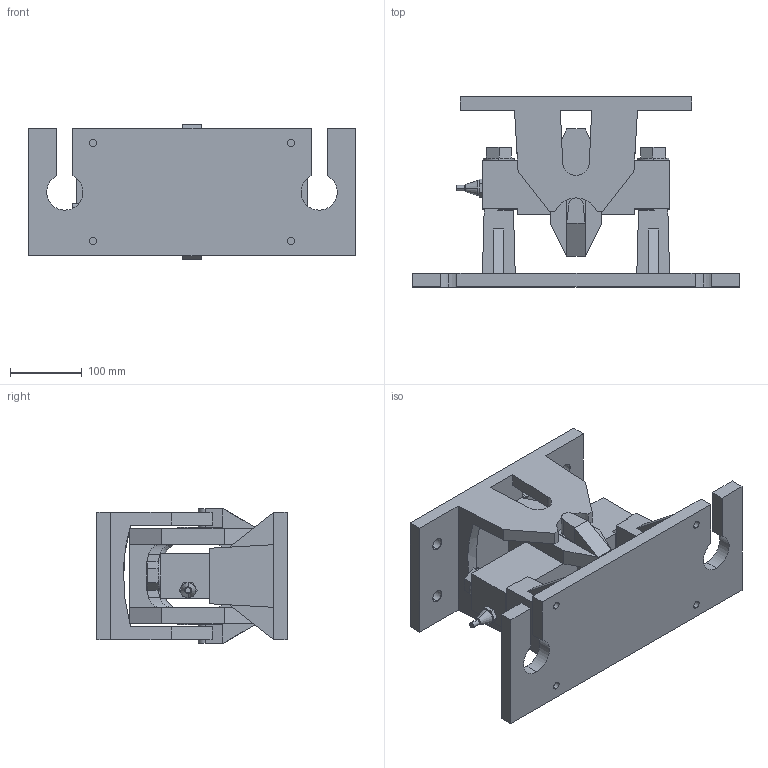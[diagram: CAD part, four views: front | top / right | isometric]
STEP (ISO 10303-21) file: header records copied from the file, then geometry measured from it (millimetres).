
FILE_DESCRIPTION (( 'STEP AP203' ), '1' );
FILE_NAME ('102BHM1-(50-75)Klb.STEP', '2025-06-30T10:33:41', ( '' ), ( '' ), 'SwSTEP 2.0', 'SolidWorks 2024', '' );
FILE_SCHEMA (( 'CONFIG_CONTROL_DESIGN' ));
Length unit declared in the file: millimetre
Products named in the file (1): 102BHM1-(50-75)Klb
Bounding box: 457.2 x 266 x 188 mm (x, y, z)
Volume: 5845169.6 mm3; surface area: 642222.7 mm2
Topology: 4 solids, 4 shells, 255 faces, 657 edges, 414 vertices
Faces by surface type: plane 150, cylinder 48, cone 44, bspline 13
Entity records: 8880 total; most frequent: CARTESIAN_POINT 2540, ORIENTED_EDGE 1314, DIRECTION 1260, EDGE_CURVE 657, LINE 480, VECTOR 480, VERTEX_POINT 414, AXIS2_PLACEMENT_3D 390
